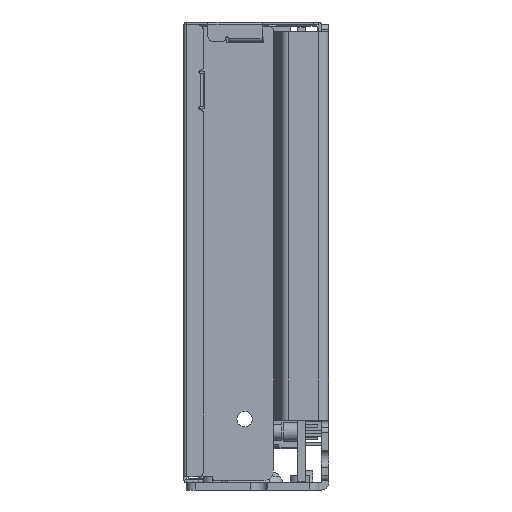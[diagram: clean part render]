
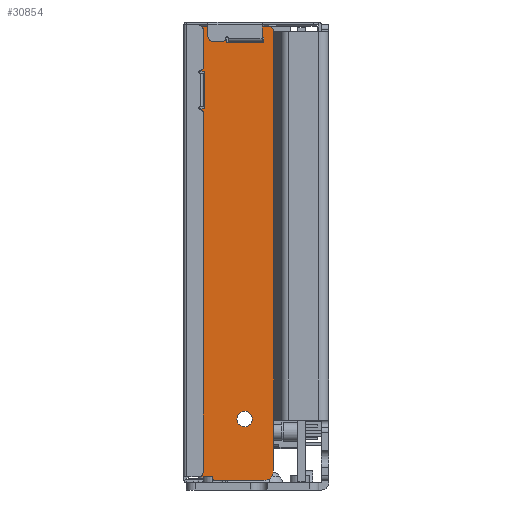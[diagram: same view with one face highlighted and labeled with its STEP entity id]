
A CAD part, left-side view. The second image highlights one B-rep face of the part: STEP entity #30854.
In plain terms, the highlighted planar face has unit normal (-1, 0, 0).
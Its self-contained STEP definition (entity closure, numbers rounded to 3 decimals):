
#9999=CARTESIAN_POINT('',(-57.5,17.4,-33.55));
#10000=DIRECTION('',(-1.,0.,0.));
#10001=DIRECTION('',(0.,0.,-1.));
#10002=AXIS2_PLACEMENT_3D('',#9999,#10000,#10001);
#10007=CARTESIAN_POINT('',(-57.5,17.4,-33.55));
#10008=DIRECTION('',(-1.,0.,0.));
#10009=DIRECTION('',(0.,0.,1.));
#10010=AXIS2_PLACEMENT_3D('',#10007,#10008,#10009);
#10015=DIRECTION('',(0.,0.,1.));
#10016=VECTOR('',#10015,7.8);
#10017=CARTESIAN_POINT('',(-57.5,26.7,30.75));
#10018=LINE('',#10017,#10016);
#10022=DIRECTION('',(0.,1.,0.));
#10023=VECTOR('',#10022,1.);
#10024=CARTESIAN_POINT('',(-57.5,25.7,30.75));
#10025=LINE('',#10024,#10023);
#10029=DIRECTION('',(0.,0.,-1.));
#10030=VECTOR('',#10029,7.8);
#10031=CARTESIAN_POINT('',(-57.5,25.7,38.55));
#10032=LINE('',#10031,#10030);
#10036=DIRECTION('',(0.,-1.,0.));
#10037=VECTOR('',#10036,1.);
#10038=CARTESIAN_POINT('',(-57.5,26.7,38.55));
#10039=LINE('',#10038,#10037);
#10043=DIRECTION('',(0.,0.,1.));
#10044=VECTOR('',#10043,1.);
#10045=CARTESIAN_POINT('',(-57.5,21.2,44.45));
#10046=LINE('',#10045,#10044);
#10050=DIRECTION('',(0.,1.,0.));
#10051=VECTOR('',#10050,7.8);
#10052=CARTESIAN_POINT('',(-57.5,13.4,44.45));
#10053=LINE('',#10052,#10051);
#10057=DIRECTION('',(0.,0.,-1.));
#10058=VECTOR('',#10057,1.);
#10059=CARTESIAN_POINT('',(-57.5,13.4,45.45));
#10060=LINE('',#10059,#10058);
#10064=DIRECTION('',(0.,-1.,0.));
#10065=VECTOR('',#10064,7.8);
#10066=CARTESIAN_POINT('',(-57.5,21.2,45.45));
#10067=LINE('',#10066,#10065);
#10071=CARTESIAN_POINT('',(-57.5,23.6,-45.75));
#10072=DIRECTION('',(-1.,0.,0.));
#10073=DIRECTION('',(0.,1.,0.));
#10074=AXIS2_PLACEMENT_3D('',#10071,#10072,#10073);
#10079=DIRECTION('',(0.,0.,1.));
#10080=VECTOR('',#10079,0.2);
#10081=CARTESIAN_POINT('',(-57.5,24.1,-45.75));
#10082=LINE('',#10081,#10080);
#10086=DIRECTION('',(0.,-1.,0.));
#10087=VECTOR('',#10086,3.);
#10088=CARTESIAN_POINT('',(-57.5,27.1,-45.55));
#10089=LINE('',#10088,#10087);
#10093=CARTESIAN_POINT('',(-57.5,27.1,-43.55));
#10094=DIRECTION('',(-1.,0.,0.));
#10095=DIRECTION('',(0.,1.,0.));
#10096=AXIS2_PLACEMENT_3D('',#10093,#10094,#10095);
#10101=CARTESIAN_POINT('',(-57.5,27.1,45.85));
#10102=DIRECTION('',(-1.,0.,0.));
#10103=DIRECTION('',(0.,0.,1.));
#10104=AXIS2_PLACEMENT_3D('',#10101,#10102,#10103);
#10109=DIRECTION('',(0.,1.,0.));
#10110=VECTOR('',#10109,14.686);
#10111=CARTESIAN_POINT('',(-57.5,12.414,47.85));
#10112=LINE('',#10111,#10110);
#10116=CARTESIAN_POINT('',(-57.5,12.414,46.85));
#10117=DIRECTION('',(-1.,0.,0.));
#10118=DIRECTION('',(0.,-1.,0.));
#10119=AXIS2_PLACEMENT_3D('',#10116,#10117,#10118);
#10124=DIRECTION('',(0.,0.,1.));
#10125=VECTOR('',#10124,0.1);
#10126=CARTESIAN_POINT('',(-57.5,11.414,46.75));
#10127=LINE('',#10126,#10125);
#10131=DIRECTION('',(0.,0.,1.));
#10132=VECTOR('',#10131,80.5);
#10133=CARTESIAN_POINT('',(-57.5,11.414,-33.75));
#10134=LINE('',#10133,#10132);
#10138=DIRECTION('',(0.,0.,1.));
#10139=VECTOR('',#10138,10.5);
#10140=CARTESIAN_POINT('',(-57.5,11.414,-44.25));
#10141=LINE('',#10140,#10139);
#10145=CARTESIAN_POINT('',(-57.5,13.414,-44.25));
#10146=DIRECTION('',(-1.,0.,0.));
#10147=DIRECTION('',(0.,0.,-1.));
#10148=AXIS2_PLACEMENT_3D('',#10145,#10146,#10147);
#10391=DIRECTION('',(0.,1.,0.));
#10392=VECTOR('',#10391,10.186);
#10393=CARTESIAN_POINT('',(-57.5,13.414,-46.25));
#10394=LINE('',#10393,#10392);
#10447=DIRECTION('',(0.,0.,-1.));
#10448=VECTOR('',#10447,89.4);
#10449=CARTESIAN_POINT('',(-57.5,29.1,45.85));
#10450=LINE('',#10449,#10448);
#22508=CARTESIAN_POINT('',(-57.5,24.1,-45.55));
#22510=VERTEX_POINT('',#22508);
#24910=CARTESIAN_POINT('',(-57.5,17.4,-35.15));
#24911=CARTESIAN_POINT('',(-57.5,17.4,-31.95));
#24912=VERTEX_POINT('',#24910);
#24913=VERTEX_POINT('',#24911);
#24933=CARTESIAN_POINT('',(-57.5,11.414,-33.75));
#24935=VERTEX_POINT('',#24933);
#25094=CARTESIAN_POINT('',(-57.5,11.414,46.75));
#25095=VERTEX_POINT('',#25094);
#25108=CARTESIAN_POINT('',(-57.5,26.7,30.75));
#25109=CARTESIAN_POINT('',(-57.5,26.7,38.55));
#25110=VERTEX_POINT('',#25108);
#25111=VERTEX_POINT('',#25109);
#25112=CARTESIAN_POINT('',(-57.5,25.7,38.55));
#25113=VERTEX_POINT('',#25112);
#25114=CARTESIAN_POINT('',(-57.5,25.7,30.75));
#25115=VERTEX_POINT('',#25114);
#25116=CARTESIAN_POINT('',(-57.5,21.2,44.45));
#25117=CARTESIAN_POINT('',(-57.5,21.2,45.45));
#25118=VERTEX_POINT('',#25116);
#25119=VERTEX_POINT('',#25117);
#25120=CARTESIAN_POINT('',(-57.5,13.4,45.45));
#25121=VERTEX_POINT('',#25120);
#25122=CARTESIAN_POINT('',(-57.5,13.4,44.45));
#25123=VERTEX_POINT('',#25122);
#25188=CARTESIAN_POINT('',(-57.5,29.1,-43.55));
#25189=CARTESIAN_POINT('',(-57.5,27.1,-45.55));
#25190=VERTEX_POINT('',#25188);
#25191=VERTEX_POINT('',#25189);
#25212=CARTESIAN_POINT('',(-57.5,13.414,-46.25));
#25213=CARTESIAN_POINT('',(-57.5,11.414,-44.25));
#25214=VERTEX_POINT('',#25212);
#25215=VERTEX_POINT('',#25213);
#25324=CARTESIAN_POINT('',(-57.5,24.1,-45.75));
#25325=CARTESIAN_POINT('',(-57.5,23.6,-46.25));
#25326=VERTEX_POINT('',#25324);
#25327=VERTEX_POINT('',#25325);
#25332=CARTESIAN_POINT('',(-57.5,29.1,45.85));
#25333=VERTEX_POINT('',#25332);
#25336=CARTESIAN_POINT('',(-57.5,11.414,46.85));
#25337=CARTESIAN_POINT('',(-57.5,12.414,47.85));
#25338=VERTEX_POINT('',#25336);
#25339=VERTEX_POINT('',#25337);
#25344=CARTESIAN_POINT('',(-57.5,27.1,47.85));
#25345=VERTEX_POINT('',#25344);
#30798=CARTESIAN_POINT('',(-57.5,11.414,-46.25));
#30799=DIRECTION('',(1.,0.,0.));
#30800=DIRECTION('',(0.,1.,0.));
#30801=AXIS2_PLACEMENT_3D('',#30798,#30799,#30800);
#30802=PLANE('',#30801);
#30804=ORIENTED_EDGE('',*,*,#30803,.F.);
#30806=ORIENTED_EDGE('',*,*,#30805,.T.);
#30808=ORIENTED_EDGE('',*,*,#30807,.F.);
#30810=ORIENTED_EDGE('',*,*,#30809,.F.);
#30812=ORIENTED_EDGE('',*,*,#30811,.F.);
#30814=ORIENTED_EDGE('',*,*,#30813,.F.);
#30816=ORIENTED_EDGE('',*,*,#30815,.F.);
#30818=ORIENTED_EDGE('',*,*,#30817,.F.);
#30820=ORIENTED_EDGE('',*,*,#30819,.F.);
#30821=ORIENTED_EDGE('',*,*,#30748,.F.);
#30822=ORIENTED_EDGE('',*,*,#30775,.F.);
#30823=ORIENTED_EDGE('',*,*,#30788,.F.);
#30825=ORIENTED_EDGE('',*,*,#30824,.T.);
#30826=EDGE_LOOP('',(#30804,#30806,#30808,#30810,#30812,#30814,#30816,#30818,
#30820,#30821,#30822,#30823,#30825));
#30827=FACE_OUTER_BOUND('',#30826,.F.);
#30829=ORIENTED_EDGE('',*,*,#30828,.F.);
#30831=ORIENTED_EDGE('',*,*,#30830,.F.);
#30833=ORIENTED_EDGE('',*,*,#30832,.F.);
#30835=ORIENTED_EDGE('',*,*,#30834,.F.);
#30836=EDGE_LOOP('',(#30829,#30831,#30833,#30835));
#30837=FACE_BOUND('',#30836,.F.);
#30839=ORIENTED_EDGE('',*,*,#30838,.F.);
#30841=ORIENTED_EDGE('',*,*,#30840,.F.);
#30843=ORIENTED_EDGE('',*,*,#30842,.F.);
#30845=ORIENTED_EDGE('',*,*,#30844,.F.);
#30846=EDGE_LOOP('',(#30839,#30841,#30843,#30845));
#30847=FACE_BOUND('',#30846,.F.);
#30849=ORIENTED_EDGE('',*,*,#30848,.T.);
#30851=ORIENTED_EDGE('',*,*,#30850,.T.);
#30852=EDGE_LOOP('',(#30849,#30851));
#30853=FACE_BOUND('',#30852,.F.);
#10003=CIRCLE('',#10002,1.6);
#10011=CIRCLE('',#10010,1.6);
#10075=CIRCLE('',#10074,0.5);
#10097=CIRCLE('',#10096,2.);
#10105=CIRCLE('',#10104,2.);
#10120=CIRCLE('',#10119,1.);
#10149=CIRCLE('',#10148,2.);
#30748=EDGE_CURVE('',#24935,#25095,#10134,.T.);
#30775=EDGE_CURVE('',#25215,#24935,#10141,.T.);
#30788=EDGE_CURVE('',#25214,#25215,#10149,.T.);
#30803=EDGE_CURVE('',#25326,#25327,#10075,.T.);
#30805=EDGE_CURVE('',#25326,#22510,#10082,.T.);
#30807=EDGE_CURVE('',#25191,#22510,#10089,.T.);
#30809=EDGE_CURVE('',#25190,#25191,#10097,.T.);
#30811=EDGE_CURVE('',#25333,#25190,#10450,.T.);
#30813=EDGE_CURVE('',#25345,#25333,#10105,.T.);
#30815=EDGE_CURVE('',#25339,#25345,#10112,.T.);
#30817=EDGE_CURVE('',#25338,#25339,#10120,.T.);
#30819=EDGE_CURVE('',#25095,#25338,#10127,.T.);
#30824=EDGE_CURVE('',#25214,#25327,#10394,.T.);
#30828=EDGE_CURVE('',#25110,#25111,#10018,.T.);
#30830=EDGE_CURVE('',#25115,#25110,#10025,.T.);
#30832=EDGE_CURVE('',#25113,#25115,#10032,.T.);
#30834=EDGE_CURVE('',#25111,#25113,#10039,.T.);
#30838=EDGE_CURVE('',#25118,#25119,#10046,.T.);
#30840=EDGE_CURVE('',#25123,#25118,#10053,.T.);
#30842=EDGE_CURVE('',#25121,#25123,#10060,.T.);
#30844=EDGE_CURVE('',#25119,#25121,#10067,.T.);
#30848=EDGE_CURVE('',#24912,#24913,#10003,.T.);
#30850=EDGE_CURVE('',#24913,#24912,#10011,.T.);
#30854=ADVANCED_FACE('',(#30827,#30837,#30847,#30853),#30802,.F.);
